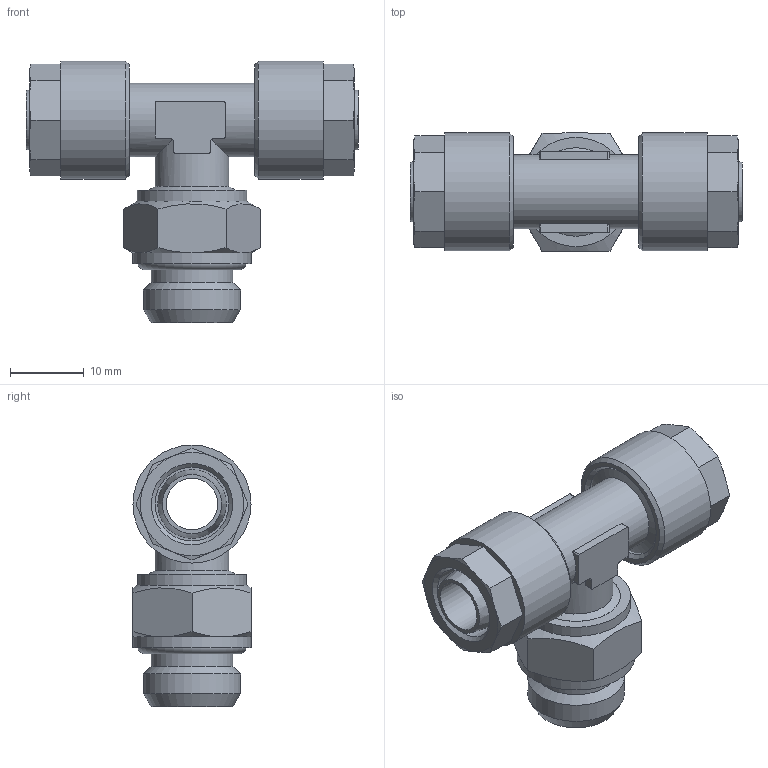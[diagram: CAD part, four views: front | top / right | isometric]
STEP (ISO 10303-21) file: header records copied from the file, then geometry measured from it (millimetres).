
FILE_DESCRIPTION(/* description */ (''),/* implementation_level */ '2;1');
FILE_NAME(/* name */ '12155_307DZ_108_R14_14.08.17',/* time_stamp */ '2017-08-14T10:42:41+02:00',/* author */ (''),/* organization */ (''),/* preprocessor_version */ 'ST-DEVELOPER v16.5',/* originating_system */ 'HiCAD 2016 2102.2 Build 618',/* authorisation */ '');
FILE_SCHEMA (('AUTOMOTIVE_DESIGN { 1 0 10303 214 1 1 1 1 }'));
Length unit declared in the file: millimetre
Products named in the file (6): Root; 12155; Gewindestück_1-4; 17007; OR 11.11X1.78
Assembly tree (5 placements, depth 2):
  Root
    12155
    Gewindestück_1-4
    17007
    17007
    OR 11.11X1.78
Bounding box: 45 x 16 x 35.5 mm (x, y, z)
Volume: 6632.5 mm3; surface area: 7867.1 mm2
Topology: 5 solids, 5 shells, 144 faces, 354 edges, 226 vertices
Faces by surface type: plane 58, cone 44, cylinder 37, torus 5
Full cylindrical faces by diameter (mm): 7 x1, 7.5 x1, 8 x1, 8.5 x2, 10 x4, 11.1 x1, 12 x2, 12.773 x2, 13.157 x1, 14 x2, 14.8 x1, 16 x3
Entity records: 10163 total; most frequent: CARTESIAN_POINT 4156, DIRECTION 718, PRESENTATION_STYLE_ASSIGNMENT 561, COLOUR_RGB 558, DRAUGHTING_PRE_DEFINED_CURVE_FONT 556, CURVE_STYLE 556, OVER_RIDING_STYLED_ITEM 556, ORIENTED_EDGE 556
